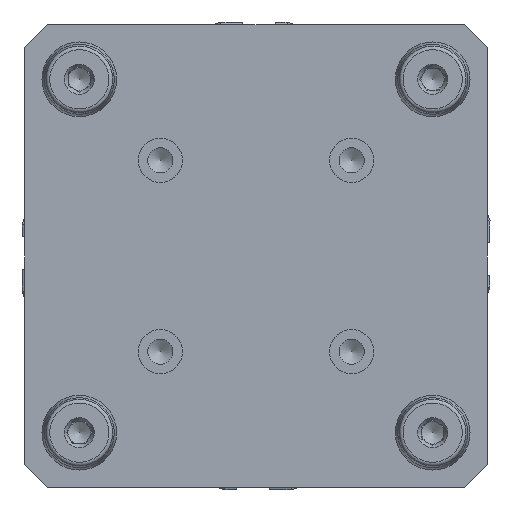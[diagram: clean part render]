
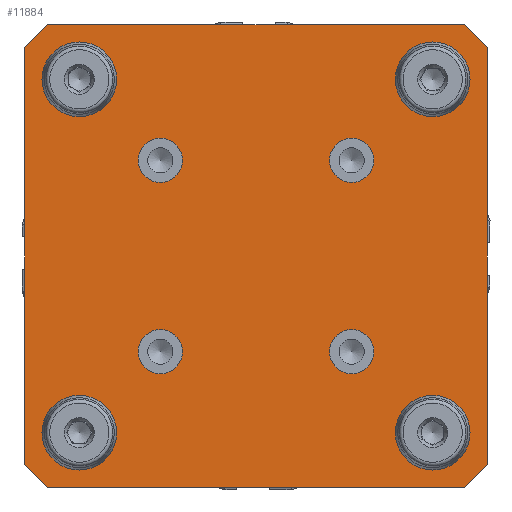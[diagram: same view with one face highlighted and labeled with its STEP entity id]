
A CAD part, front view. The second image highlights one B-rep face of the part: STEP entity #11884.
In plain terms, the highlighted planar face has unit normal (0, -1, 0).
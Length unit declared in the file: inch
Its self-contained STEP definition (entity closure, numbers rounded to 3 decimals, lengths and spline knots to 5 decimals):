
#51 = EDGE_CURVE ( 'NONE', #2694, #10989, #12037, .T. ) ;
#233 = CARTESIAN_POINT ( 'NONE',  ( -1.88976, -0.27362, 1.57441 ) ) ;
#366 = CARTESIAN_POINT ( 'NONE',  ( -1.02362, -0.27362, -1.02362 ) ) ;
#452 = CIRCLE ( 'NONE', #6678, 0.31535 ) ;
#854 = EDGE_LOOP ( 'NONE', ( #1276 ) ) ;
#891 = VECTOR ( 'NONE', #11897, 39.37008 ) ;
#926 = DIRECTION ( 'NONE',  ( 0., -1., 0. ) ) ;
#936 = CARTESIAN_POINT ( 'NONE',  ( 2.225, -0.27362, -2.475 ) ) ;
#1178 = CARTESIAN_POINT ( 'NONE',  ( -1.88976, -0.27362, -2.20511 ) ) ;
#1276 = ORIENTED_EDGE ( 'NONE', *, *, #9250, .F. ) ;
#1323 = EDGE_CURVE ( 'NONE', #11377, #11377, #4873, .T. ) ;
#1355 = DIRECTION ( 'NONE',  ( 1., 0., 0. ) ) ;
#1503 = VERTEX_POINT ( 'NONE', #7825 ) ;
#1698 = VECTOR ( 'NONE', #7181, 39.37008 ) ;
#1713 = VERTEX_POINT ( 'NONE', #7904 ) ;
#1948 = CARTESIAN_POINT ( 'NONE',  ( -2.225, -0.27362, 2.475 ) ) ;
#1992 = FACE_BOUND ( 'NONE', #9421, .T. ) ;
#2058 = DIRECTION ( 'NONE',  ( 0.707, 0., -0.707 ) ) ;
#2279 = CIRCLE ( 'NONE', #11989, 0.31535 ) ;
#2387 = ORIENTED_EDGE ( 'NONE', *, *, #11842, .T. ) ;
#2694 = VERTEX_POINT ( 'NONE', #936 ) ;
#2774 = EDGE_CURVE ( 'NONE', #10989, #8132, #7117, .T. ) ;
#2903 = CARTESIAN_POINT ( 'NONE',  ( -2.35, -0.27362, -2.35 ) ) ;
#2946 = DIRECTION ( 'NONE',  ( 0., -1., 0. ) ) ;
#2957 = EDGE_CURVE ( 'NONE', #8475, #8205, #9251, .T. ) ;
#2964 = ORIENTED_EDGE ( 'NONE', *, *, #8504, .T. ) ;
#3052 = CARTESIAN_POINT ( 'NONE',  ( 2.475, -0.27362, 2.475 ) ) ;
#3099 = CARTESIAN_POINT ( 'NONE',  ( -2.475, -0.27362, 2.475 ) ) ;
#3108 = FACE_BOUND ( 'NONE', #6625, .T. ) ;
#3159 = VERTEX_POINT ( 'NONE', #1948 ) ;
#3183 = DIRECTION ( 'NONE',  ( 0., -1., 0. ) ) ;
#3339 = CIRCLE ( 'NONE', #7665, 0.23655 ) ;
#3628 = CARTESIAN_POINT ( 'NONE',  ( 1.88976, -0.27362, -2.20511 ) ) ;
#3780 = CIRCLE ( 'NONE', #5723, 0.23655 ) ;
#3789 = EDGE_CURVE ( 'NONE', #11986, #2694, #13037, .T. ) ;
#3972 = CARTESIAN_POINT ( 'NONE',  ( 2.475, -0.27362, 2.225 ) ) ;
#3975 = CARTESIAN_POINT ( 'NONE',  ( 2.475, -0.27362, -2.225 ) ) ;
#3992 = FACE_BOUND ( 'NONE', #9791, .T. ) ;
#4042 = CIRCLE ( 'NONE', #7700, 0.31535 ) ;
#4106 = EDGE_CURVE ( 'NONE', #1713, #1713, #7029, .T. ) ;
#4115 = EDGE_CURVE ( 'NONE', #7832, #7832, #3339, .T. ) ;
#4124 = FACE_BOUND ( 'NONE', #854, .T. ) ;
#4162 = CARTESIAN_POINT ( 'NONE',  ( -2.475, -0.27362, -2.225 ) ) ;
#4169 = ORIENTED_EDGE ( 'NONE', *, *, #4106, .F. ) ;
#4179 = FACE_BOUND ( 'NONE', #7929, .T. ) ;
#4249 = ORIENTED_EDGE ( 'NONE', *, *, #8257, .T. ) ;
#4318 = DIRECTION ( 'NONE',  ( 0., -1., 0. ) ) ;
#4367 = ORIENTED_EDGE ( 'NONE', *, *, #9178, .T. ) ;
#4380 = VERTEX_POINT ( 'NONE', #1178 ) ;
#4528 = CARTESIAN_POINT ( 'NONE',  ( 2.225, -0.27362, 2.475 ) ) ;
#4855 = VECTOR ( 'NONE', #1355, 39.37008 ) ;
#4869 = DIRECTION ( 'NONE',  ( 0., 0., -1. ) ) ;
#4873 = CIRCLE ( 'NONE', #12186, 0.23655 ) ;
#5011 = CARTESIAN_POINT ( 'NONE',  ( -2.475, -0.27362, 2.475 ) ) ;
#5198 = DIRECTION ( 'NONE',  ( 0., 0., -1. ) ) ;
#5261 = FACE_BOUND ( 'NONE', #11228, .T. ) ;
#5289 = AXIS2_PLACEMENT_3D ( 'NONE', #9662, #3183, #7496 ) ;
#5661 = DIRECTION ( 'NONE',  ( 0., 0., -1. ) ) ;
#5669 = CARTESIAN_POINT ( 'NONE',  ( 1.02362, -0.27362, 0.78707 ) ) ;
#5723 = AXIS2_PLACEMENT_3D ( 'NONE', #366, #4318, #12557 ) ;
#5856 = VERTEX_POINT ( 'NONE', #3628 ) ;
#6119 = EDGE_LOOP ( 'NONE', ( #12118, #4367, #11329, #7268, #7419, #2964, #2387, #4249 ) ) ;
#6217 = CIRCLE ( 'NONE', #7091, 0.31535 ) ;
#6235 = DIRECTION ( 'NONE',  ( 0., -1., 0. ) ) ;
#6419 = ORIENTED_EDGE ( 'NONE', *, *, #1323, .F. ) ;
#6625 = EDGE_LOOP ( 'NONE', ( #9769 ) ) ;
#6678 = AXIS2_PLACEMENT_3D ( 'NONE', #9985, #8714, #5661 ) ;
#6693 = DIRECTION ( 'NONE',  ( 0., -1., 0. ) ) ;
#6780 = CARTESIAN_POINT ( 'NONE',  ( 2.35, -0.27362, -2.35 ) ) ;
#6849 = DIRECTION ( 'NONE',  ( 0.707, 0., 0.707 ) ) ;
#6904 = CARTESIAN_POINT ( 'NONE',  ( 2.35, -0.27362, 2.35 ) ) ;
#6950 = EDGE_CURVE ( 'NONE', #7359, #7359, #4042, .T. ) ;
#7029 = CIRCLE ( 'NONE', #5289, 0.23655 ) ;
#7087 = CARTESIAN_POINT ( 'NONE',  ( 1.88976, -0.27362, 1.57441 ) ) ;
#7091 = AXIS2_PLACEMENT_3D ( 'NONE', #7515, #7592, #12910 ) ;
#7117 = LINE ( 'NONE', #3052, #1698 ) ;
#7181 = DIRECTION ( 'NONE',  ( 0., 0., 1. ) ) ;
#7268 = ORIENTED_EDGE ( 'NONE', *, *, #51, .T. ) ;
#7278 = EDGE_LOOP ( 'NONE', ( #4169 ) ) ;
#7359 = VERTEX_POINT ( 'NONE', #233 ) ;
#7361 = FACE_BOUND ( 'NONE', #8701, .T. ) ;
#7419 = ORIENTED_EDGE ( 'NONE', *, *, #2774, .T. ) ;
#7496 = DIRECTION ( 'NONE',  ( 0., 0., -1. ) ) ;
#7515 = CARTESIAN_POINT ( 'NONE',  ( -1.88976, -0.27362, -1.88976 ) ) ;
#7592 = DIRECTION ( 'NONE',  ( 0., -1., 0. ) ) ;
#7665 = AXIS2_PLACEMENT_3D ( 'NONE', #9364, #2946, #11150 ) ;
#7700 = AXIS2_PLACEMENT_3D ( 'NONE', #11276, #6235, #10360 ) ;
#7782 = LINE ( 'NONE', #6904, #891 ) ;
#7825 = CARTESIAN_POINT ( 'NONE',  ( -1.02362, -0.27362, -1.26017 ) ) ;
#7832 = VERTEX_POINT ( 'NONE', #5669 ) ;
#7904 = CARTESIAN_POINT ( 'NONE',  ( 1.02362, -0.27362, -1.26017 ) ) ;
#7929 = EDGE_LOOP ( 'NONE', ( #7978 ) ) ;
#7978 = ORIENTED_EDGE ( 'NONE', *, *, #9396, .F. ) ;
#8132 = VERTEX_POINT ( 'NONE', #3972 ) ;
#8205 = VERTEX_POINT ( 'NONE', #4162 ) ;
#8248 = FACE_OUTER_BOUND ( 'NONE', #6119, .T. ) ;
#8257 = EDGE_CURVE ( 'NONE', #3159, #8475, #10582, .T. ) ;
#8291 = EDGE_CURVE ( 'NONE', #4380, #4380, #6217, .T. ) ;
#8313 = PLANE ( 'NONE',  #8672 ) ;
#8475 = VERTEX_POINT ( 'NONE', #12372 ) ;
#8504 = EDGE_CURVE ( 'NONE', #8132, #12027, #7782, .T. ) ;
#8572 = VECTOR ( 'NONE', #6849, 39.37008 ) ;
#8672 = AXIS2_PLACEMENT_3D ( 'NONE', #11487, #926, #12369 ) ;
#8701 = EDGE_LOOP ( 'NONE', ( #10410 ) ) ;
#8714 = DIRECTION ( 'NONE',  ( 0., -1., 0. ) ) ;
#8884 = ORIENTED_EDGE ( 'NONE', *, *, #10405, .F. ) ;
#8886 = VECTOR ( 'NONE', #9129, 39.37008 ) ;
#9071 = LINE ( 'NONE', #2903, #11663 ) ;
#9116 = VERTEX_POINT ( 'NONE', #7087 ) ;
#9129 = DIRECTION ( 'NONE',  ( -1., 0., 0. ) ) ;
#9178 = EDGE_CURVE ( 'NONE', #8205, #11986, #9071, .T. ) ;
#9208 = CARTESIAN_POINT ( 'NONE',  ( -1.02362, -0.27362, 0.78707 ) ) ;
#9231 = DIRECTION ( 'NONE',  ( -0.707, 0., -0.707 ) ) ;
#9250 = EDGE_CURVE ( 'NONE', #1503, #1503, #3780, .T. ) ;
#9251 = LINE ( 'NONE', #3099, #11112 ) ;
#9260 = LINE ( 'NONE', #5011, #8886 ) ;
#9364 = CARTESIAN_POINT ( 'NONE',  ( 1.02362, -0.27362, 1.02362 ) ) ;
#9396 = EDGE_CURVE ( 'NONE', #5856, #5856, #2279, .T. ) ;
#9421 = EDGE_LOOP ( 'NONE', ( #8884 ) ) ;
#9662 = CARTESIAN_POINT ( 'NONE',  ( 1.02362, -0.27362, -1.02362 ) ) ;
#9769 = ORIENTED_EDGE ( 'NONE', *, *, #4115, .F. ) ;
#9791 = EDGE_LOOP ( 'NONE', ( #6419 ) ) ;
#9985 = CARTESIAN_POINT ( 'NONE',  ( 1.88976, -0.27362, 1.88976 ) ) ;
#10360 = DIRECTION ( 'NONE',  ( 0., 0., -1. ) ) ;
#10405 = EDGE_CURVE ( 'NONE', #9116, #9116, #452, .T. ) ;
#10410 = ORIENTED_EDGE ( 'NONE', *, *, #6950, .F. ) ;
#10582 = LINE ( 'NONE', #11585, #12039 ) ;
#10828 = DIRECTION ( 'NONE',  ( 0., 0., -1. ) ) ;
#10916 = CARTESIAN_POINT ( 'NONE',  ( -2.475, -0.27362, -2.475 ) ) ;
#10989 = VERTEX_POINT ( 'NONE', #3975 ) ;
#11096 = CARTESIAN_POINT ( 'NONE',  ( -1.02362, -0.27362, 1.02362 ) ) ;
#11112 = VECTOR ( 'NONE', #5198, 39.37008 ) ;
#11150 = DIRECTION ( 'NONE',  ( 0., 0., -1. ) ) ;
#11228 = EDGE_LOOP ( 'NONE', ( #11300 ) ) ;
#11249 = FACE_BOUND ( 'NONE', #7278, .T. ) ;
#11251 = DIRECTION ( 'NONE',  ( 0., -1., 0. ) ) ;
#11276 = CARTESIAN_POINT ( 'NONE',  ( -1.88976, -0.27362, 1.88976 ) ) ;
#11300 = ORIENTED_EDGE ( 'NONE', *, *, #8291, .F. ) ;
#11329 = ORIENTED_EDGE ( 'NONE', *, *, #3789, .T. ) ;
#11377 = VERTEX_POINT ( 'NONE', #9208 ) ;
#11487 = CARTESIAN_POINT ( 'NONE',  ( 0., -0.27362, 0. ) ) ;
#11585 = CARTESIAN_POINT ( 'NONE',  ( -2.35, -0.27362, 2.35 ) ) ;
#11663 = VECTOR ( 'NONE', #2058, 39.37008 ) ;
#11842 = EDGE_CURVE ( 'NONE', #12027, #3159, #9260, .T. ) ;
#11884 = ADVANCED_FACE ( 'NONE', ( #7361, #5261, #4179, #3992, #3108, #11249, #4124, #1992, #8248 ), #8313, .T. ) ;
#11897 = DIRECTION ( 'NONE',  ( -0.707, 0., 0.707 ) ) ;
#11986 = VERTEX_POINT ( 'NONE', #12550 ) ;
#11989 = AXIS2_PLACEMENT_3D ( 'NONE', #12951, #6693, #10828 ) ;
#12027 = VERTEX_POINT ( 'NONE', #4528 ) ;
#12037 = LINE ( 'NONE', #6780, #8572 ) ;
#12039 = VECTOR ( 'NONE', #9231, 39.37008 ) ;
#12118 = ORIENTED_EDGE ( 'NONE', *, *, #2957, .T. ) ;
#12186 = AXIS2_PLACEMENT_3D ( 'NONE', #11096, #11251, #4869 ) ;
#12369 = DIRECTION ( 'NONE',  ( 0., 0., -1. ) ) ;
#12372 = CARTESIAN_POINT ( 'NONE',  ( -2.475, -0.27362, 2.225 ) ) ;
#12550 = CARTESIAN_POINT ( 'NONE',  ( -2.225, -0.27362, -2.475 ) ) ;
#12557 = DIRECTION ( 'NONE',  ( 0., 0., -1. ) ) ;
#12910 = DIRECTION ( 'NONE',  ( 0., 0., -1. ) ) ;
#12951 = CARTESIAN_POINT ( 'NONE',  ( 1.88976, -0.27362, -1.88976 ) ) ;
#13037 = LINE ( 'NONE', #10916, #4855 ) ;
